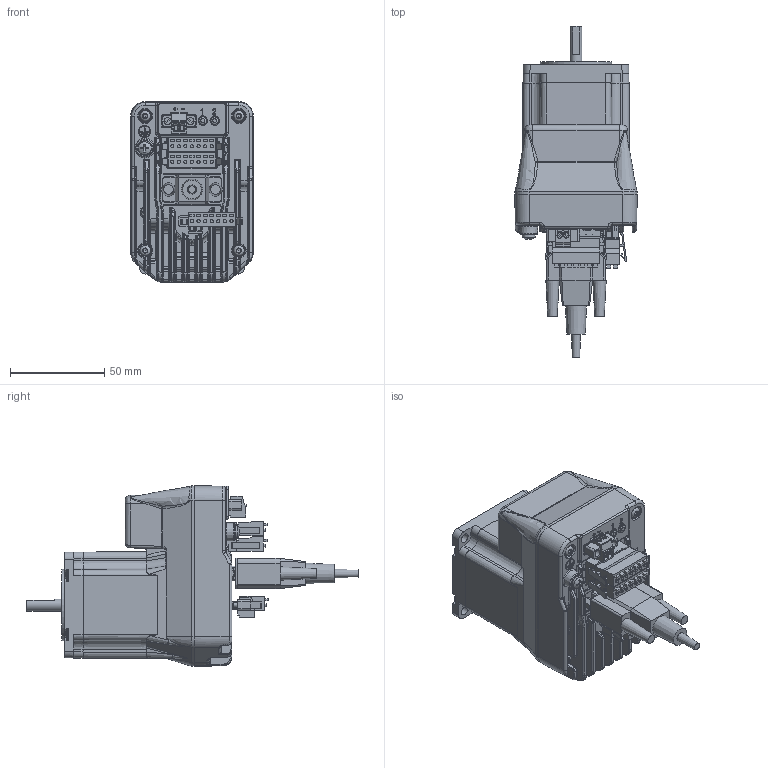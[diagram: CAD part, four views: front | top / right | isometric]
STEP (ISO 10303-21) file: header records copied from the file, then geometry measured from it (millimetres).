
FILE_DESCRIPTION(('LMDXPMA57-Double-Stack Web Model.stp'),'1');
FILE_NAME('T:/Kubotek Models For Design Assemblies/On-Line web models/LMD23/LMDXPMA57-Double-Stack Web Model.stp', '2013-04-02T16:00:13',('P. Bordua, 04/02/13'), ('Schneider Electric Motion USA'), 'KCM Version 1.1.514.0', 'Kubotek KeyCreator', 'Kubotek KeyCreator 2012 11.3.1');
FILE_SCHEMA(('AUTOMOTIVE_DESIGN'));
Length unit declared in the file: inch
Bounding box: 65.15 x 176.58 x 96.07 mm (x, y, z)
Volume: 421978.1 mm3; surface area: 70411.5 mm2
Topology: 9 solids, 9 shells, 3545 faces, 8902 edges, 5644 vertices
Faces by surface type: plane 2004, cylinder 743, bspline 579, cone 130, torus 56, sphere 33
Full cylindrical faces by diameter (mm): 1.092 x27, 1.6 x31, 1.611 x4, 1.686 x28, 2.261 x2, 2.5 x2, 2.743 x4, 3.792 x4, 5.004 x4, 5.007 x2, 5.6 x4, 6.35 x1, 6.858 x1, 7.692 x1, 16.18 x1, 38.1 x1
Entity records: 128733 total; most frequent: CARTESIAN_POINT 54218, ORIENTED_EDGE 14222, DIRECTION 11949, EDGE_CURVE 7111, VERTEX_POINT 4487, VECTOR 4171, LINE 4171, AXIS2_PLACEMENT_3D 3889
